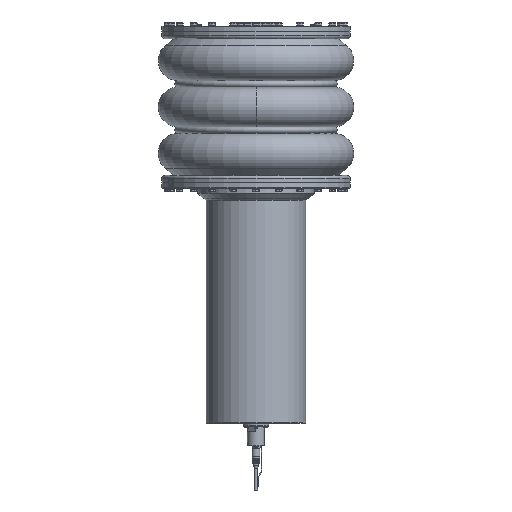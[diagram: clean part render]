
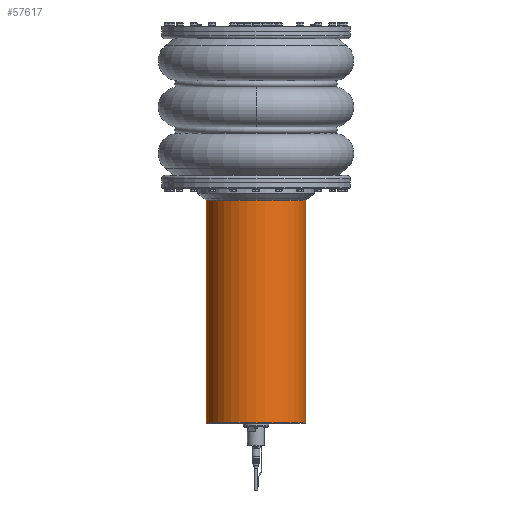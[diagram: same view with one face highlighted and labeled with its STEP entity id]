
A CAD part, front view. The second image highlights one B-rep face of the part: STEP entity #57617.
In plain terms, the highlighted cylindrical face has radius 136.5 mm (diameter 273 mm), a full revolution.
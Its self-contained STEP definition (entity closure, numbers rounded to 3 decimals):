
#4148=LINE('',#79843,#8378);
#8378=VECTOR('',#66351,136.5);
#12386=CYLINDRICAL_SURFACE('',#61296,136.5);
#13724=FACE_OUTER_BOUND('',#17113,.T.);
#17113=EDGE_LOOP('',(#37286,#37287,#37288,#37289));
#20934=CIRCLE('',#61297,136.5);
#20935=CIRCLE('',#61298,136.5);
#22688=VERTEX_POINT('',#79840);
#22689=VERTEX_POINT('',#79842);
#28308=EDGE_CURVE('',#22688,#22688,#20934,.T.);
#28309=EDGE_CURVE('',#22688,#22689,#4148,.T.);
#28310=EDGE_CURVE('',#22689,#22689,#20935,.T.);
#37286=ORIENTED_EDGE('',*,*,#28308,.F.);
#37287=ORIENTED_EDGE('',*,*,#28309,.T.);
#37288=ORIENTED_EDGE('',*,*,#28310,.F.);
#37289=ORIENTED_EDGE('',*,*,#28309,.F.);
#57617=ADVANCED_FACE('',(#13724),#12386,.T.);
#61296=AXIS2_PLACEMENT_3D('',#79839,#66347,#66348);
#61297=AXIS2_PLACEMENT_3D('',#79841,#66349,#66350);
#61298=AXIS2_PLACEMENT_3D('',#79844,#66352,#66353);
#66347=DIRECTION('center_axis',(0.,0.,
-1.));
#66348=DIRECTION('ref_axis',(-1.,0.,0.));
#66349=DIRECTION('center_axis',(0.,0.,
-1.));
#66350=DIRECTION('ref_axis',(-1.,0.,0.));
#66351=DIRECTION('',(0.,0.,1.));
#66352=DIRECTION('center_axis',(0.,0.,
1.));
#66353=DIRECTION('ref_axis',(-1.,0.,0.));
#79839=CARTESIAN_POINT('Origin',(0.,0.,
-633.));
#79840=CARTESIAN_POINT('',(136.5,0.,-645.));
#79841=CARTESIAN_POINT('Origin',(0.,0.,
-645.));
#79842=CARTESIAN_POINT('',(136.5,0.,-33.743));
#79843=CARTESIAN_POINT('',(136.5,0.,-633.));
#79844=CARTESIAN_POINT('Origin',(0.,0.,
-33.743));
